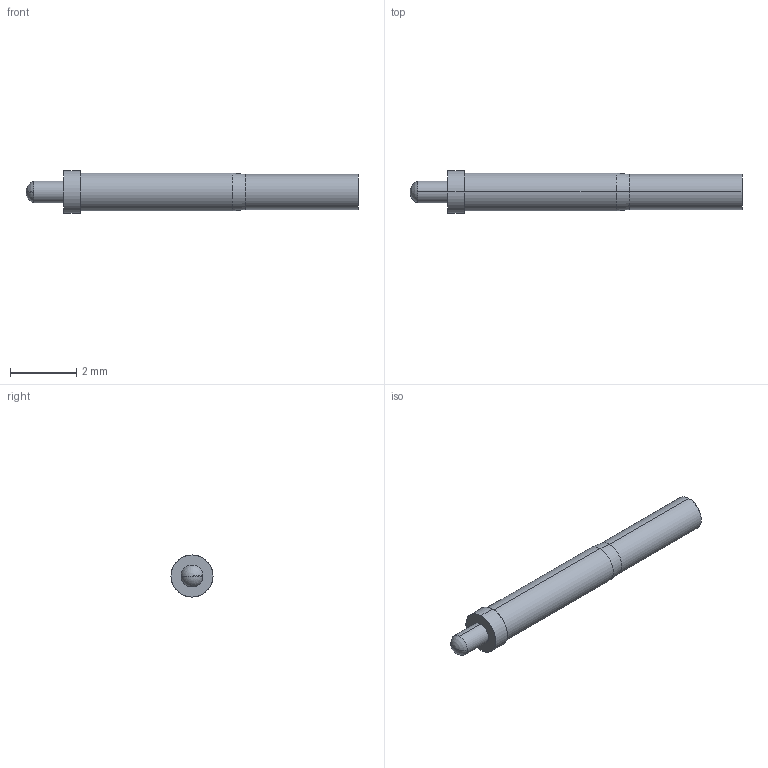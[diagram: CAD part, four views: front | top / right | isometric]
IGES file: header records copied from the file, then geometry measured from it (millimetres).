
Start section: SolidWorks IGES file using analytic representation for surfaces
Global section: file name: C:\Users\otazawa\Desktop\プローブカタログデータ確認分2014.07\IISeries\II11-1R.IGS,15HSolidWorks; native system: 2011; preprocessor: SolidWorks 2011; author: otazawa; date: 140825.145714; units: millimetre
Bounding box: 10.03 x 1.27 x 1.27 mm (x, y, z)
Surface area: 39.9 mm2 (no closed solid volume)
Topology: 0 solids, 0 shells, 18 faces, 172 edges, 170 vertices
Faces by surface type: revolution 14, bspline 4
